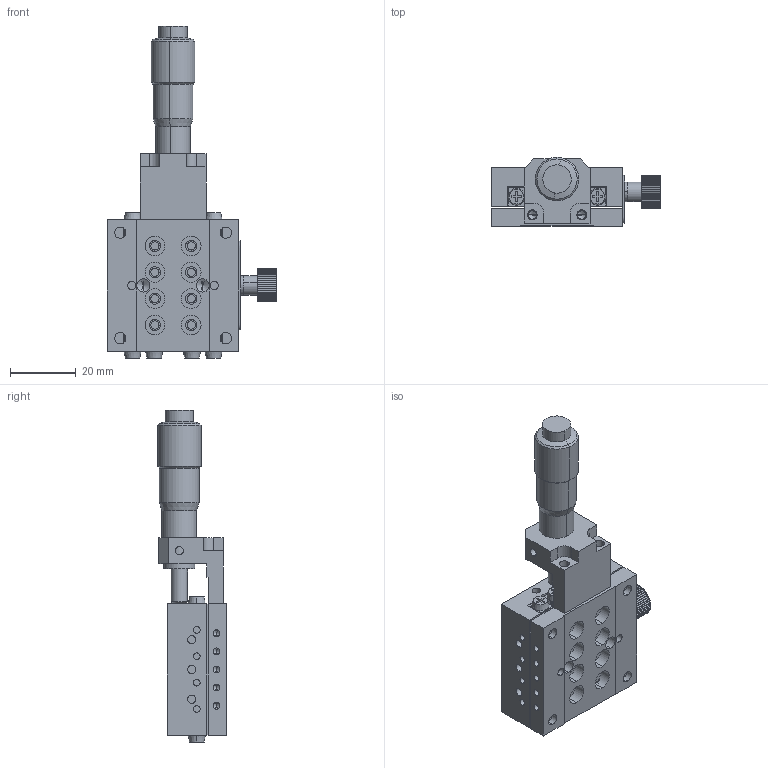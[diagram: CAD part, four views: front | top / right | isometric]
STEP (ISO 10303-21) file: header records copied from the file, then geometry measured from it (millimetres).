
FILE_DESCRIPTION (( 'STEP AP203' ), '1' );
FILE_NAME ('JCX-40C(18H).STEP', '2019-02-12T00:43:31', ( 'Windows 餌辨濠' ), ( '' ), 'SwSTEP 2.0', 'SolidWorks 2018', '' );
FILE_SCHEMA (( 'CONFIG_CONTROL_DESIGN' ));
Length unit declared in the file: millimetre
Products named in the file (9): JCX-40C(18H); FC-PL-27X14; FC-SJ-3; FC-NB-10; JV2-40-8; FB-JCX-BK-C-01; FB-JCX40((18H)(JV2-40)-BD-01; JALB-72-R; FB-JCX40((18H)(JV2-40)-BD-02
Assembly tree (11 placements, depth 2):
  JCX-40C(18H)
    FB-JCX40((18H)(JV2-40)-BD-02
    JV2-40-8  x4
    FB-JCX40((18H)(JV2-40)-BD-01
    FC-PL-27X14
    FC-SJ-3
    FC-NB-10
    JALB-72-R
    FB-JCX-BK-C-01
Bounding box: 51.5 x 20.9 x 100.7 mm (x, y, z)
Volume: 30625.3 mm3; surface area: 23923.6 mm2
Topology: 11 solids, 11 shells, 1000 faces, 2633 edges, 1651 vertices
Faces by surface type: cylinder 515, plane 395, cone 86, sphere 4
Entity records: 21826 total; most frequent: DIRECTION 3827, CARTESIAN_POINT 3796, ORIENTED_EDGE 3394, EDGE_CURVE 1697, AXIS2_PLACEMENT_3D 1494, VERTEX_POINT 1099, LINE 839, VECTOR 839
